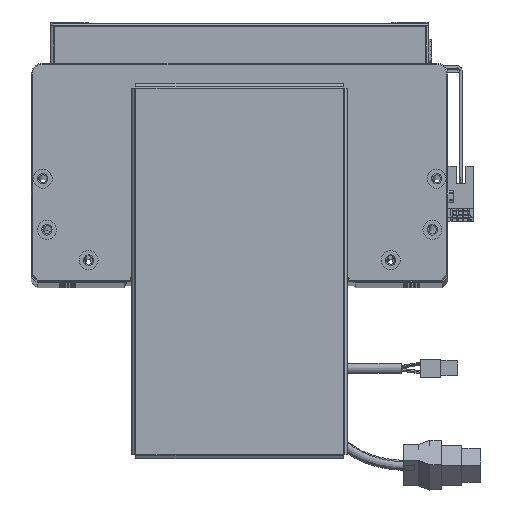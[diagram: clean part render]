
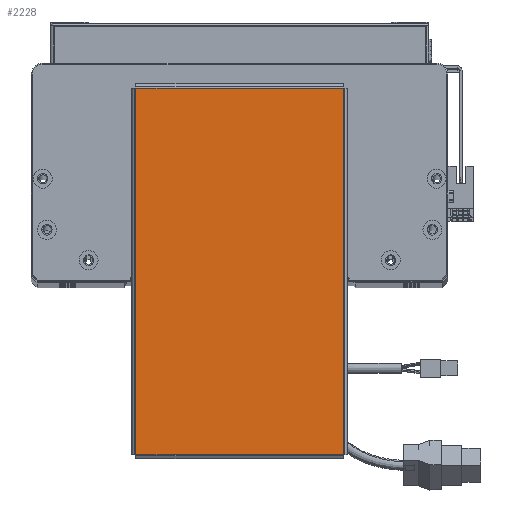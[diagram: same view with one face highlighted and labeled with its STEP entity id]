
A CAD part, top view. The second image highlights one B-rep face of the part: STEP entity #2228.
In plain terms, the highlighted planar face has unit normal (0, 0, 1).
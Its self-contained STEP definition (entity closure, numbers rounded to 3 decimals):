
#606 = VERTEX_POINT ( 'NONE', #27920 ) ;
#1767 = ORIENTED_EDGE ( 'NONE', *, *, #38268, .T. ) ;
#2068 = VERTEX_POINT ( 'NONE', #42503 ) ;
#2228 = ADVANCED_FACE ( 'NONE', ( #3008 ), #39932, .T. ) ;
#2319 = DIRECTION ( 'NONE',  ( 1., 0., 0. ) ) ;
#2548 = DIRECTION ( 'NONE',  ( 0., 0., 1. ) ) ;
#3008 = FACE_OUTER_BOUND ( 'NONE', #42971, .T. ) ;
#3298 = LINE ( 'NONE', #51992, #44865 ) ;
#7475 = ORIENTED_EDGE ( 'NONE', *, *, #19750, .T. ) ;
#10006 = DIRECTION ( 'NONE',  ( 0., 1., 0. ) ) ;
#11013 = LINE ( 'NONE', #25994, #27562 ) ;
#15645 = LINE ( 'NONE', #56969, #60472 ) ;
#19750 = EDGE_CURVE ( 'NONE', #63547, #606, #15645, .T. ) ;
#20116 = DIRECTION ( 'NONE',  ( 1., 0., 0. ) ) ;
#20414 = VERTEX_POINT ( 'NONE', #52551 ) ;
#22165 = EDGE_CURVE ( 'NONE', #2068, #20414, #11013, .T. ) ;
#25994 = CARTESIAN_POINT ( 'NONE',  ( 96.763, -54.793, 0. ) ) ;
#27562 = VECTOR ( 'NONE', #10006, 1000. ) ;
#27920 = CARTESIAN_POINT ( 'NONE',  ( -96.763, -54.763, 0. ) ) ;
#30243 = ORIENTED_EDGE ( 'NONE', *, *, #22165, .T. ) ;
#34534 = ORIENTED_EDGE ( 'NONE', *, *, #66739, .T. ) ;
#37883 = DIRECTION ( 'NONE',  ( -1., 0., 0. ) ) ;
#38268 = EDGE_CURVE ( 'NONE', #20414, #63547, #45834, .T. ) ;
#38435 = VECTOR ( 'NONE', #37883, 1000. ) ;
#39073 = CARTESIAN_POINT ( 'NONE',  ( -96.763, 54.763, 0. ) ) ;
#39761 = AXIS2_PLACEMENT_3D ( 'NONE', #45022, #2548, #2319 ) ;
#39932 = PLANE ( 'NONE',  #39761 ) ;
#42503 = CARTESIAN_POINT ( 'NONE',  ( 96.763, -54.763, 0. ) ) ;
#42971 = EDGE_LOOP ( 'NONE', ( #34534, #30243, #1767, #7475 ) ) ;
#44865 = VECTOR ( 'NONE', #20116, 1000. ) ;
#45022 = CARTESIAN_POINT ( 'NONE',  ( 0., 0., 0. ) ) ;
#45834 = LINE ( 'NONE', #48513, #38435 ) ;
#48513 = CARTESIAN_POINT ( 'NONE',  ( 96.793, 54.763, 0. ) ) ;
#51992 = CARTESIAN_POINT ( 'NONE',  ( -96.793, -54.763, 0. ) ) ;
#52551 = CARTESIAN_POINT ( 'NONE',  ( 96.763, 54.763, 0. ) ) ;
#56969 = CARTESIAN_POINT ( 'NONE',  ( -96.763, 54.793, 0. ) ) ;
#60472 = VECTOR ( 'NONE', #61829, 1000. ) ;
#61829 = DIRECTION ( 'NONE',  ( 0., -1., 0. ) ) ;
#63547 = VERTEX_POINT ( 'NONE', #39073 ) ;
#66739 = EDGE_CURVE ( 'NONE', #606, #2068, #3298, .T. ) ;
